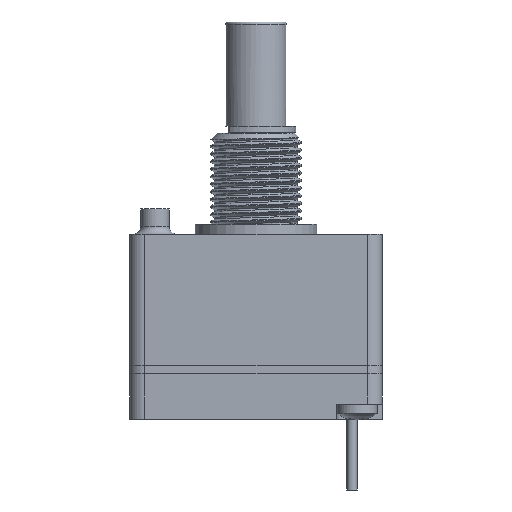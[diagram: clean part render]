
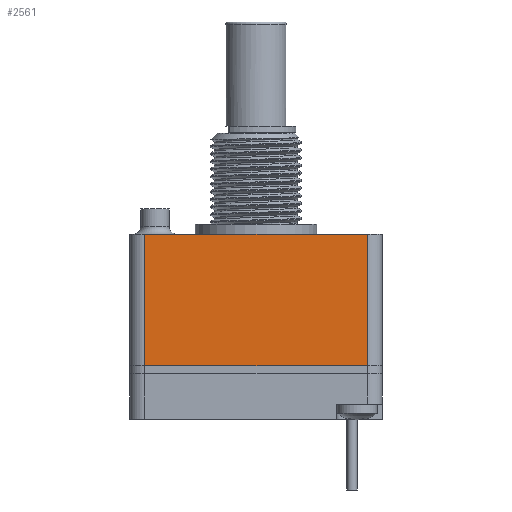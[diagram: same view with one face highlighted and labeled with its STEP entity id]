
A CAD part, left-side view. The second image highlights one B-rep face of the part: STEP entity #2561.
In plain terms, the highlighted planar face has unit normal (-1, 0, 0).
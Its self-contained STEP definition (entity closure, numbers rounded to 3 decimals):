
#820 = PLANE('',#821);
#821 = AXIS2_PLACEMENT_3D('',#822,#823,#824);
#822 = CARTESIAN_POINT('',(-12.5,-12.5,-14.8));
#823 = DIRECTION('',(1.,0.,0.));
#824 = DIRECTION('',(0.,0.,1.));
#1789 = VERTEX_POINT('',#1790);
#1790 = CARTESIAN_POINT('',(-12.5,11.,-14.));
#1805 = CYLINDRICAL_SURFACE('',#1806,1.5);
#1806 = AXIS2_PLACEMENT_3D('',#1807,#1808,#1809);
#1807 = CARTESIAN_POINT('',(-11.,11.,-14.));
#1808 = DIRECTION('',(0.,0.,1.));
#1809 = DIRECTION('',(-1.,0.,0.));
#1877 = EDGE_CURVE('',#1878,#1789,#1880,.T.);
#1878 = VERTEX_POINT('',#1879);
#1879 = CARTESIAN_POINT('',(-12.5,-11.,-14.));
#1880 = SURFACE_CURVE('',#1881,(#1885,#1892),.PCURVE_S1.);
#1881 = LINE('',#1882,#1883);
#1882 = CARTESIAN_POINT('',(-12.5,-12.5,-14.));
#1883 = VECTOR('',#1884,1.);
#1884 = DIRECTION('',(0.,1.,0.));
#1885 = PCURVE('',#820,#1886);
#1886 = DEFINITIONAL_REPRESENTATION('',(#1887),#1891);
#1887 = LINE('',#1888,#1889);
#1888 = CARTESIAN_POINT('',(0.8,0.));
#1889 = VECTOR('',#1890,1.);
#1890 = DIRECTION('',(0.,-1.));
#1891 = ( GEOMETRIC_REPRESENTATION_CONTEXT(2) 
PARAMETRIC_REPRESENTATION_CONTEXT() REPRESENTATION_CONTEXT('2D SPACE',''
  ) );
#1892 = PCURVE('',#1893,#1898);
#1893 = PLANE('',#1894);
#1894 = AXIS2_PLACEMENT_3D('',#1895,#1896,#1897);
#1895 = CARTESIAN_POINT('',(-12.5,-12.5,-14.));
#1896 = DIRECTION('',(1.,0.,0.));
#1897 = DIRECTION('',(0.,0.,1.));
#1898 = DEFINITIONAL_REPRESENTATION('',(#1899),#1903);
#1899 = LINE('',#1900,#1901);
#1900 = CARTESIAN_POINT('',(0.,0.));
#1901 = VECTOR('',#1902,1.);
#1902 = DIRECTION('',(0.,-1.));
#1903 = ( GEOMETRIC_REPRESENTATION_CONTEXT(2) 
PARAMETRIC_REPRESENTATION_CONTEXT() REPRESENTATION_CONTEXT('2D SPACE',''
  ) );
#2292 = PLANE('',#2293);
#2293 = AXIS2_PLACEMENT_3D('',#2294,#2295,#2296);
#2294 = CARTESIAN_POINT('',(-12.5,-12.5,-1.));
#2295 = DIRECTION('',(0.,0.,1.));
#2296 = DIRECTION('',(1.,0.,0.));
#2486 = VERTEX_POINT('',#2487);
#2487 = CARTESIAN_POINT('',(-12.5,11.,-1.));
#2513 = EDGE_CURVE('',#1789,#2486,#2514,.T.);
#2514 = SURFACE_CURVE('',#2515,(#2519,#2526),.PCURVE_S1.);
#2515 = LINE('',#2516,#2517);
#2516 = CARTESIAN_POINT('',(-12.5,11.,-14.));
#2517 = VECTOR('',#2518,1.);
#2518 = DIRECTION('',(0.,0.,1.));
#2519 = PCURVE('',#1805,#2520);
#2520 = DEFINITIONAL_REPRESENTATION('',(#2521),#2525);
#2521 = LINE('',#2522,#2523);
#2522 = CARTESIAN_POINT('',(-0.,0.));
#2523 = VECTOR('',#2524,1.);
#2524 = DIRECTION('',(-0.,1.));
#2525 = ( GEOMETRIC_REPRESENTATION_CONTEXT(2) 
PARAMETRIC_REPRESENTATION_CONTEXT() REPRESENTATION_CONTEXT('2D SPACE',''
  ) );
#2526 = PCURVE('',#1893,#2527);
#2527 = DEFINITIONAL_REPRESENTATION('',(#2528),#2532);
#2528 = LINE('',#2529,#2530);
#2529 = CARTESIAN_POINT('',(0.,-23.5));
#2530 = VECTOR('',#2531,1.);
#2531 = DIRECTION('',(1.,0.));
#2532 = ( GEOMETRIC_REPRESENTATION_CONTEXT(2) 
PARAMETRIC_REPRESENTATION_CONTEXT() REPRESENTATION_CONTEXT('2D SPACE',''
  ) );
#2561 = ADVANCED_FACE('',(#2562),#1893,.F.);
#2562 = FACE_BOUND('',#2563,.F.);
#2563 = EDGE_LOOP('',(#2564,#2587,#2613,#2614));
#2564 = ORIENTED_EDGE('',*,*,#2565,.F.);
#2565 = EDGE_CURVE('',#2566,#2486,#2568,.T.);
#2566 = VERTEX_POINT('',#2567);
#2567 = CARTESIAN_POINT('',(-12.5,-11.,-1.));
#2568 = SURFACE_CURVE('',#2569,(#2573,#2580),.PCURVE_S1.);
#2569 = LINE('',#2570,#2571);
#2570 = CARTESIAN_POINT('',(-12.5,-12.5,-1.));
#2571 = VECTOR('',#2572,1.);
#2572 = DIRECTION('',(0.,1.,0.));
#2573 = PCURVE('',#1893,#2574);
#2574 = DEFINITIONAL_REPRESENTATION('',(#2575),#2579);
#2575 = LINE('',#2576,#2577);
#2576 = CARTESIAN_POINT('',(13.,0.));
#2577 = VECTOR('',#2578,1.);
#2578 = DIRECTION('',(0.,-1.));
#2579 = ( GEOMETRIC_REPRESENTATION_CONTEXT(2) 
PARAMETRIC_REPRESENTATION_CONTEXT() REPRESENTATION_CONTEXT('2D SPACE',''
  ) );
#2580 = PCURVE('',#2292,#2581);
#2581 = DEFINITIONAL_REPRESENTATION('',(#2582),#2586);
#2582 = LINE('',#2583,#2584);
#2583 = CARTESIAN_POINT('',(0.,0.));
#2584 = VECTOR('',#2585,1.);
#2585 = DIRECTION('',(0.,1.));
#2586 = ( GEOMETRIC_REPRESENTATION_CONTEXT(2) 
PARAMETRIC_REPRESENTATION_CONTEXT() REPRESENTATION_CONTEXT('2D SPACE',''
  ) );
#2587 = ORIENTED_EDGE('',*,*,#2588,.F.);
#2588 = EDGE_CURVE('',#1878,#2566,#2589,.T.);
#2589 = SURFACE_CURVE('',#2590,(#2594,#2601),.PCURVE_S1.);
#2590 = LINE('',#2591,#2592);
#2591 = CARTESIAN_POINT('',(-12.5,-11.,-14.));
#2592 = VECTOR('',#2593,1.);
#2593 = DIRECTION('',(0.,0.,1.));
#2594 = PCURVE('',#1893,#2595);
#2595 = DEFINITIONAL_REPRESENTATION('',(#2596),#2600);
#2596 = LINE('',#2597,#2598);
#2597 = CARTESIAN_POINT('',(0.,-1.5));
#2598 = VECTOR('',#2599,1.);
#2599 = DIRECTION('',(1.,0.));
#2600 = ( GEOMETRIC_REPRESENTATION_CONTEXT(2) 
PARAMETRIC_REPRESENTATION_CONTEXT() REPRESENTATION_CONTEXT('2D SPACE',''
  ) );
#2601 = PCURVE('',#2602,#2607);
#2602 = CYLINDRICAL_SURFACE('',#2603,1.5);
#2603 = AXIS2_PLACEMENT_3D('',#2604,#2605,#2606);
#2604 = CARTESIAN_POINT('',(-11.,-11.,-14.));
#2605 = DIRECTION('',(0.,0.,1.));
#2606 = DIRECTION('',(-1.,0.,0.));
#2607 = DEFINITIONAL_REPRESENTATION('',(#2608),#2612);
#2608 = LINE('',#2609,#2610);
#2609 = CARTESIAN_POINT('',(0.,0.));
#2610 = VECTOR('',#2611,1.);
#2611 = DIRECTION('',(0.,1.));
#2612 = ( GEOMETRIC_REPRESENTATION_CONTEXT(2) 
PARAMETRIC_REPRESENTATION_CONTEXT() REPRESENTATION_CONTEXT('2D SPACE',''
  ) );
#2613 = ORIENTED_EDGE('',*,*,#1877,.T.);
#2614 = ORIENTED_EDGE('',*,*,#2513,.T.);
